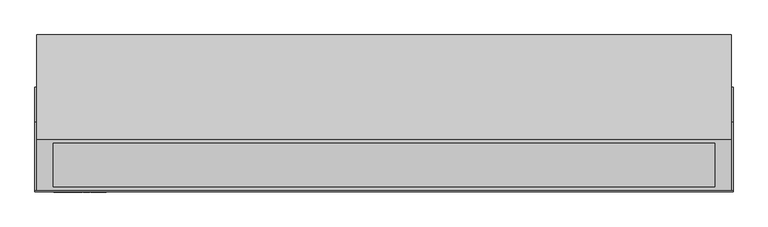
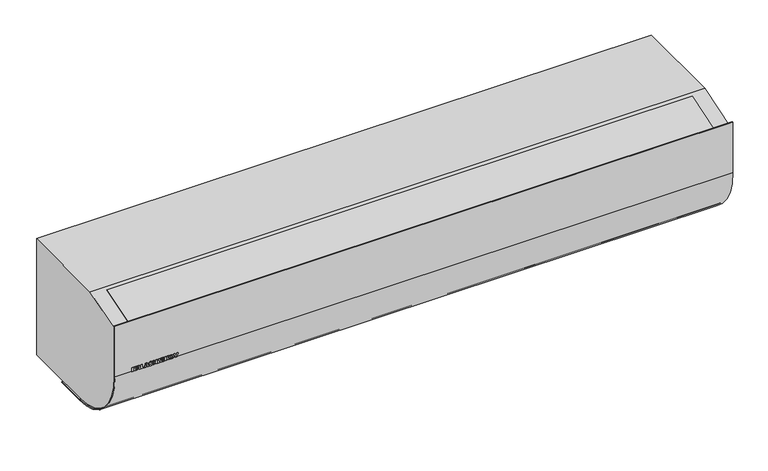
"""IFC4 building model written with IfcOpenShell, lengths in millimetres: proxy geometry, ИЗТТ_Завеса_Электрическая : KVC-D15E12-31."""

import ifcopenshell
import ifcopenshell.guid

model = None  # the IFC model being written
_history = None  # IfcOwnerHistory: only IFC2X3 demands one
_inside = {}  # id of a spatial element -> (the spatial element, [elements in it])
_under = {}  # id of a project, library or spatial element -> (it, [spatial elements below it])
_declared = {}  # id of a project -> (the project, [libraries it declares])
_typed = {}  # id of a type object -> (the type object, [elements of that type])
_made_of = {}  # id of a material, layer set ... -> (it, [elements and type objects made of it])


def new_model(schema):
    """Start an empty IFC model of exactly this schema.

    Asked for "IFC4X3", IfcOpenShell would pick the latest addendum, in which some entities
    have other attributes; the version numbers below select the first issue.
    IFC2X3 requires an IfcOwnerHistory on every rooted entity: one is made here for all.
    """
    global model, _history
    if schema == "IFC4X3":
        model = ifcopenshell.file(schema_version=(4, 3, 0, 0))
    else:
        model = ifcopenshell.file(schema=schema)
    _inside.clear()
    _under.clear()
    _declared.clear()
    _typed.clear()
    _made_of.clear()
    _history = None
    if model.schema == "IFC2X3":
        org = make("IfcOrganization", Name="unknown")
        user = make(
            "IfcPersonAndOrganization",
            ThePerson=make("IfcPerson", FamilyName="unknown"),
            TheOrganization=org,
        )
        app = make(
            "IfcApplication",
            ApplicationDeveloper=org,
            Version="unknown",
            ApplicationFullName="unknown",
            ApplicationIdentifier="unknown",
        )
        _history = make(
            "IfcOwnerHistory",
            OwningUser=user,
            OwningApplication=app,
            ChangeAction="ADDED",
            CreationDate=0,
        )
    return model


def make(cls, **values):
    """One entity of the class cls with the attributes given. An attribute that is None is left unset."""
    return model.create_entity(
        cls, **{name: value for name, value in values.items() if value is not None}
    )


def rooted(cls, **values):
    """An entity with a GlobalId (a new one), such as an element, a storey or a relation."""
    return make(cls, GlobalId=ifcopenshell.guid.new(), OwnerHistory=_history, **values)


def si_unit(unit_type, name, prefix=None):
    """IfcSIUnit, for example si_unit("LENGTHUNIT", "METRE", prefix="MILLI")."""
    return make("IfcSIUnit", UnitType=unit_type, Prefix=prefix, Name=name)


def assignment(units):
    """IfcUnitAssignment: the units of a project."""
    return None if units is None else make("IfcUnitAssignment", Units=units)


def point(xyz):
    """IfcCartesianPoint."""
    return None if xyz is None else make("IfcCartesianPoint", Coordinates=xyz)


def direction(xyz):
    """IfcDirection."""
    return None if xyz is None else make("IfcDirection", DirectionRatios=xyz)


def frame(location, z_axis=None, x_axis=None):
    """IfcAxis2Placement3D, a coordinate frame: its origin and axes. An axis left out is left unset."""
    return make(
        "IfcAxis2Placement3D",
        Location=point(location),
        Axis=direction(z_axis),
        RefDirection=direction(x_axis),
    )


def frame_2d(location, x_axis=None):
    """IfcAxis2Placement2D, a coordinate frame in the plane: its origin and x axis."""
    return make(
        "IfcAxis2Placement2D", Location=point(location), RefDirection=direction(x_axis)
    )


def origin():
    """The frame at (0, 0, 0) with its axes left unset."""
    return frame((0.0, 0.0, 0.0))


def place(relative_to, where):
    """IfcLocalPlacement: puts the frame where relative to a parent placement (None: the world)."""
    return make(
        "IfcLocalPlacement", PlacementRelTo=relative_to, RelativePlacement=where
    )


def context(
    kind, dimensions, precision=None, world=None, true_north=None, identifier=None
):
    """IfcGeometricRepresentationContext, for example the 3D "Model" context."""
    return make(
        "IfcGeometricRepresentationContext",
        ContextIdentifier=identifier,
        ContextType=kind,
        CoordinateSpaceDimension=dimensions,
        Precision=precision,
        WorldCoordinateSystem=world,
        TrueNorth=true_north,
    )


def project(units=None, contexts=None):
    """IfcProject with its units and contexts."""
    return rooted(
        "IfcProject",
        Name="project",
        RepresentationContexts=contexts,
        UnitsInContext=assignment(units),
    )


def spatial(cls, under=None, at=None, **own):
    """A site, building, storey or space (cls), placed at a placement, below another one or the project."""
    s = rooted(cls, ObjectPlacement=at, **own)
    if under is not None:
        _under.setdefault(under.id(), (under, []))[1].append(s)
    return s


def polyline(points):
    """IfcPolyline through the points."""
    return make("IfcPolyline", Points=[point(p) for p in points])


def circle_curve(where, radius):
    """IfcCircle in the frame where."""
    return make("IfcCircle", Position=where, Radius=radius)


def trimmed(basis, trim1, trim2, sense, master):
    """IfcTrimmedCurve: the piece of a basis curve between two trims."""
    return make(
        "IfcTrimmedCurve",
        BasisCurve=basis,
        Trim1=trim1,
        Trim2=trim2,
        SenseAgreement=sense,
        MasterRepresentation=master,
    )


def segment(curve, same_sense, transition):
    """IfcCompositeCurveSegment."""
    return make(
        "IfcCompositeCurveSegment",
        Transition=transition,
        SameSense=same_sense,
        ParentCurve=curve,
    )


def composite_curve(segments, self_intersect=None):
    """IfcCompositeCurve: segments joined end to end."""
    return make("IfcCompositeCurve", Segments=segments, SelfIntersect=self_intersect)


def outline(outer, holes=None, kind="AREA"):
    """IfcArbitraryClosedProfileDef: a profile drawn as a closed curve; with holes, ...WithVoids."""
    if holes is None:
        return make("IfcArbitraryClosedProfileDef", ProfileType=kind, OuterCurve=outer)
    return make(
        "IfcArbitraryProfileDefWithVoids",
        ProfileType=kind,
        OuterCurve=outer,
        InnerCurves=holes,
    )


def extrude(swept, where, along, depth):
    """IfcExtrudedAreaSolid: the profile swept, set in the frame where, extruded along a direction by depth."""
    return make(
        "IfcExtrudedAreaSolid",
        SweptArea=swept,
        Position=where,
        ExtrudedDirection=direction(along),
        Depth=depth,
    )


def shape(context_of_items, identifier, shape_type, items):
    """IfcShapeRepresentation: the items that make up one representation, for example the "Body"."""
    return make(
        "IfcShapeRepresentation",
        ContextOfItems=context_of_items,
        RepresentationIdentifier=identifier,
        RepresentationType=shape_type,
        Items=items,
    )


def source(mapping_origin, context_of_items, identifier, shape_type, items):
    """IfcRepresentationMap: a shape defined once, which mapped items show again and again."""
    return make(
        "IfcRepresentationMap",
        MappingOrigin=mapping_origin,
        MappedRepresentation=shape(context_of_items, identifier, shape_type, items),
    )


def transform(
    local_origin,
    x_axis=None,
    y_axis=None,
    z_axis=None,
    scale=None,
    scale2=None,
    scale3=None,
    uniform=True,
):
    """IfcCartesianTransformationOperator3D, or its non-uniform kind. x_axis, y_axis, z_axis: its Axis1, 2, 3."""
    if uniform:
        return make(
            "IfcCartesianTransformationOperator3D",
            Axis1=direction(x_axis),
            Axis2=direction(y_axis),
            LocalOrigin=point(local_origin),
            Scale=scale,
            Axis3=direction(z_axis),
        )
    return make(
        "IfcCartesianTransformationOperator3DnonUniform",
        Axis1=direction(x_axis),
        Axis2=direction(y_axis),
        LocalOrigin=point(local_origin),
        Scale=scale,
        Axis3=direction(z_axis),
        Scale2=scale2,
        Scale3=scale3,
    )


def mapped(mapping_source, mapping_target):
    """IfcMappedItem: shows the shape of a source again, moved by a transform."""
    return make(
        "IfcMappedItem", MappingSource=mapping_source, MappingTarget=mapping_target
    )


def made_of(thing, what):
    """Note that an element or type object is made of a material, layer set ...; save() writes the relation."""
    if what is not None:
        _made_of.setdefault(what.id(), (what, []))[1].append(thing)
    return thing


def element(
    cls,
    number,
    at=None,
    inside=None,
    cuts=None,
    type_object=None,
    material=None,
    context=None,
    identifier="Body",
    shape_type=None,
    held_by="IfcProductDefinitionShape",
    body=None,
    shapes=None,
    **own,
):
    """One element of the class cls, such as IfcWall. Its Tag is "e" and its number.

    at: its placement. inside: the storey or other place that contains it. cuts: it is an
    opening in that element (IfcRelVoidsElement). A single representation is given by context,
    identifier, shape_type and body (its items); several are given by shapes. held_by: the class
    of the entity that holds the representations. save() writes the other relations.
    """
    e = rooted(cls, Tag="e%d" % number, ObjectPlacement=at, **own)
    if body is not None:
        shapes = [shape(context, identifier, shape_type, body)]
    if shapes is not None:
        e.Representation = make(held_by, Representations=shapes)
    if inside is not None:
        _inside.setdefault(inside.id(), (inside, []))[1].append(e)
    if cuts is not None:
        rooted(
            "IfcRelVoidsElement", RelatingBuildingElement=cuts, RelatedOpeningElement=e
        )
    if type_object is not None:
        _typed.setdefault(type_object.id(), (type_object, []))[1].append(e)
    return made_of(e, material)


def aggregate(whole, parts):
    """IfcRelAggregates: a whole, such as a stair, and the parts it consists of."""
    return rooted("IfcRelAggregates", RelatingObject=whole, RelatedObjects=parts)


def save(model, path):
    """Write the relations noted so far, then the file.

    IfcRelAggregates (storeys below a building ...), IfcRelContainedInSpatialStructure (elements
    in a storey), IfcRelDefinesByType, IfcRelAssociatesMaterial and IfcRelDeclares: one each for
    every whole, place, type object, material and project.
    """
    for whole, parts in _under.values():
        aggregate(whole, parts)
    for where, things in _inside.values():
        rooted(
            "IfcRelContainedInSpatialStructure",
            RelatedElements=things,
            RelatingStructure=where,
        )
    for kind, things in _typed.values():
        rooted("IfcRelDefinesByType", RelatedObjects=things, RelatingType=kind)
    for what, things in _made_of.values():
        rooted("IfcRelAssociatesMaterial", RelatedObjects=things, RelatingMaterial=what)
    for by, libraries in _declared.values():
        rooted("IfcRelDeclares", RelatingContext=by, RelatedDefinitions=libraries)
    model.write(path)


def plane_surface(at):
    """IfcPlane: the flat surface through the origin of the frame at, square to its z axis."""
    return make("IfcPlane", Position=at)


def cylinder_surface(at, radius):
    """IfcCylindricalSurface: all points at the distance radius from the z axis of the frame at."""
    return make("IfcCylindricalSurface", Position=at, Radius=radius)


def advanced_brep(points, edges, surfaces, faces):
    """IfcAdvancedBrep: a solid bounded by faces that lie on surfaces and meet in shared edges.

    An edge is (start, end): straight between two places in points (the first is 0);
    or (start, end, curve); or (start, end, curve, False) where it runs against its curve.
    A face is (place in surfaces, loops), or (place, loops, False) where it looks against
    its surface's normal. A loop lists edges by number (the first is 1), with a minus sign
    where the edge is run from its end to its start. The first loop is the outer one.
    """
    corners = [point(p) for p in points]
    vertices = [make("IfcVertexPoint", VertexGeometry=c) for c in corners]
    made = []
    for start, end, *more in edges:
        made.append(
            make(
                "IfcEdgeCurve",
                EdgeStart=vertices[start],
                EdgeEnd=vertices[end],
                EdgeGeometry=more[0] if more else make("IfcPolyline", Points=[corners[start], corners[end]]),
                SameSense=more[1] if len(more) > 1 else True,
            )
        )
    hull = []
    for where, loops, *sense in faces:
        bounds = []
        for j, loop in enumerate(loops):
            ring = [make("IfcOrientedEdge", EdgeElement=made[abs(k) - 1], Orientation=k > 0) for k in loop]
            bounds.append(
                make(
                    "IfcFaceOuterBound" if j == 0 else "IfcFaceBound",
                    Bound=make("IfcEdgeLoop", EdgeList=ring),
                    Orientation=True,
                )
            )
        hull.append(make("IfcAdvancedFace", Bounds=bounds, FaceSurface=surfaces[where], SameSense=sense[0] if sense else True))
    return make("IfcAdvancedBrep", Outer=make("IfcClosedShell", CfsFaces=hull))


def mechanical_equipment_00a1be9c(model_context):
    return source(origin(), model_context, "Body", "SolidModel", [
        extrude(outline(polyline([(162.0, -719.0196078), (152.0, -719.0196078), (152.0, -715.8823529), (153.7647059, -715.8823529), (155.7745098, -714.1115196), (152.0, -712.2794118), (152.0, -708.4313725), (158.2775735, -711.9056373), (162.0, -708.627451), (162.0, -712.8982843), (158.2224265, -715.8823529), (162.0, -715.8823529), (162.0, -719.0196078)])), frame((0.0, -342.0, 0.0), z_axis=(0.0, 1.0, 0.0), x_axis=(0.0, 0.0, 1.0)), (0.0, 0.0, 1.0), 1.0),
        extrude(outline(polyline([(153.5686275, -701.4338235), (152.0, -700.9803922), (152.0, -697.6470588), (162.0, -701.0202206), (162.0, -705.0582108), (152.0, -708.4313725), (152.0, -705.0980392), (153.5686275, -704.6660539), (153.5686275, -701.4338235)]), holes=[polyline([(155.9215686, -702.0281863), (155.9215686, -704.0165441), (159.4540441, -703.0392157), (155.9215686, -702.0281863)])]), frame((0.0, -342.0, 0.0), z_axis=(0.0, 1.0, 0.0), x_axis=(0.0, 0.0, 1.0)), (0.0, 0.0, 1.0), 1.0),
        extrude(outline(polyline([(162.0, -696.6666667), (152.0, -696.6666667), (152.0, -688.8235294), (154.3529412, -688.8235294), (154.3529412, -693.5294118), (162.0, -693.5294118), (162.0, -696.6666667)])), frame((0.0, -342.0, 0.0), z_axis=(0.0, 1.0, 0.0), x_axis=(0.0, 0.0, 1.0)), (0.0, 0.0, 1.0), 1.0),
        extrude(outline(polyline([(153.5686275, -681.4338235), (152.0, -680.9803922), (152.0, -677.6470588), (162.0, -681.0202206), (162.0, -685.0582108), (152.0, -688.4313725), (152.0, -685.0980392), (153.5686275, -684.6660539), (153.5686275, -681.4338235)]), holes=[polyline([(155.9215686, -682.0281863), (155.9215686, -684.0165441), (159.4540441, -683.0392157), (155.9215686, -682.0281863)])]), frame((0.0, -342.0, 0.0), z_axis=(0.0, 1.0, 0.0), x_axis=(0.0, 0.0, 1.0)), (0.0, 0.0, 1.0), 1.0),
        extrude(outline(polyline([(155.3394608, -677.254902), (152.8026961, -676.1488971), (151.8039216, -672.6378676), (152.2297794, -670.2420343), (153.4813113, -668.7637868), (155.28125, -668.2352941), (156.7870711, -668.6305147), (157.9129902, -669.8958333), (158.8106618, -672.7757353), (160.4313725, -672.9074755), (160.1050858, -672.1338848), (159.0588235, -671.7647059), (159.2395833, -668.627451), (161.4883578, -669.8054534), (162.1960784, -672.6807598), (161.8039216, -675.1011029), (160.7285539, -676.4231005), (159.276348, -676.8627451), (157.3492647, -675.9957108), (156.1237745, -673.1219363), (154.8186275, -671.372549), (154.0818015, -671.6865809), (153.7647059, -672.5796569), (154.3958333, -673.7775735), (155.5294118, -674.1176471), (155.3394608, -677.254902)])), frame((0.0, -342.0, 0.0), z_axis=(0.0, 1.0, 0.0), x_axis=(0.0, 0.0, 1.0)), (0.0, 0.0, 1.0), 1.0),
        extrude(outline(polyline([(162.0, -666.6666667), (152.0, -666.6666667), (152.0, -663.5294118), (156.1176471, -663.5294118), (156.1176471, -660.1960784), (152.0, -660.1960784), (152.0, -657.0588235), (162.0, -657.0588235), (162.0, -660.1960784), (158.4705882, -660.1960784), (158.4705882, -663.5294118), (162.0, -663.5294118), (162.0, -666.6666667)])), frame((0.0, -342.0, 0.0), z_axis=(0.0, 1.0, 0.0), x_axis=(0.0, 0.0, 1.0)), (0.0, 0.0, 1.0), 1.0),
        extrude(outline(polyline([(162.0, -655.0980392), (152.0, -655.0980392), (152.0, -652.1568627), (157.4901961, -652.1568627), (152.0, -648.4313725), (152.0, -645.4901961), (162.0, -645.4901961), (162.0, -648.4313725), (156.4730392, -648.4313725), (162.0, -652.1783088), (162.0, -655.0980392)])), frame((0.0, -342.0, 0.0), z_axis=(0.0, 1.0, 0.0), x_axis=(0.0, 0.0, 1.0)), (0.0, 0.0, 1.0), 1.0),
        extrude(outline(polyline([(-640.1960784, -342.0), (-643.3333333, -342.0), (-643.3333333, -341.0), (-640.1960784, -341.0), (-640.1960784, -342.0)])), frame((0.0, 0.0, 152.0), z_axis=(0.0, 0.0, 1.0), x_axis=(1.0, 0.0, 0.0)), (0.0, 0.0, 1.0), 10.0),
        extrude(outline(polyline([(162.0, -638.0392157), (152.0, -638.0392157), (152.0, -634.9019608), (153.7647059, -634.9019608), (155.7745098, -633.1311275), (152.0, -631.2990196), (152.0, -627.4509804), (158.2775735, -630.9252451), (162.0, -627.6470588), (162.0, -631.9178922), (158.2224265, -634.9019608), (162.0, -634.9019608), (162.0, -638.0392157)])), frame((0.0, -342.0, 0.0), z_axis=(0.0, 1.0, 0.0), x_axis=(0.0, 0.0, 1.0)), (0.0, 0.0, 1.0), 1.0),
        extrude(outline(polyline([(156.9938725, -626.8627451), (154.0603554, -626.171875), (152.346201, -624.3688725), (151.8039216, -621.5594363), (152.4304534, -618.7729779), (154.1859681, -617.0618873), (157.0765931, -616.4705882), (160.8495711, -617.8247549), (162.1960784, -621.685049), (160.8250613, -625.4947917), (156.9938725, -626.8627451)]), holes=[polyline([(156.9938725, -623.7254902), (159.1813725, -623.1678922), (159.8431373, -621.6911765), (159.1920956, -620.1685049), (157.1286765, -619.6078431), (154.8048407, -620.145527), (154.1568627, -621.6636029), (154.8186275, -623.1709559), (156.9938725, -623.7254902)])]), frame((0.0, -342.0, 0.0), z_axis=(0.0, 1.0, 0.0), x_axis=(0.0, 0.0, 1.0)), (0.0, 0.0, 1.0), 1.0),
        extrude(outline(polyline([(162.0, -615.6862745), (152.0, -611.9699755), (152.0, -608.6397059), (162.0, -604.9019608), (162.0, -608.2352941), (154.8033088, -610.2941176), (162.0, -612.3560049), (162.0, -615.6862745)])), frame((0.0, -342.0, 0.0), z_axis=(0.0, 1.0, 0.0), x_axis=(0.0, 0.0, 1.0)), (0.0, 0.0, 1.0), 1.0),
        extrude(outline(polyline([(-22.2777778, 10.0), (-22.2777778, 0.0), (-40.5555556, 10.0), (-40.5555556, 0.0), (-58.8333333, 10.0), (-58.8333333, 0.0), (-77.1111111, 10.0), (-77.1111111, 0.0), (-95.3888889, 10.0), (-95.3888889, 0.0), (-113.5833165, 10.5360909), (-4.0, 10.5360909), (-4.0, 0.0), (-22.2777778, 10.0)])), frame((-720.0, 0.0, 0.0), z_axis=(1.0, 0.0, 0.0), x_axis=(0.0, 1.0, 0.0)), (0.0, 0.0, 1.0), 1440.0),
        advanced_brep(
        [(756.0, -227.3333333, 304.0), (756.0, -339.0, 269.0), (756.0, -339.0, 152.0), (756.0, -189.0, 2.0), (756.0, 0.0, 2.0), (756.0, 0.0, 304.0), (-756.0, -227.3333333, 304.0), (-756.0, 0.0, 304.0), (-756.0, 0.0, 2.0), (-756.0, -189.0, 2.0), (-756.0, -339.0, 152.0), (-756.0, -339.0, 269.0), (720.0, -4.0, 2.0), (-720.0, -4.0, 2.0), (-720.0, -113.6666667, 2.0), (720.0, -113.6666667, 2.0), (720.0, -4.0, 10.0), (720.0, -113.6666667, 10.0), (-720.0, -113.6666667, 10.0), (-720.0, -4.0, 10.0)],
        [
            (0, 1),
            (1, 2),
            (2, 3, circle_curve(frame((756.0, -189.0, 152.0), z_axis=(1.0, 0.0, 0.0), x_axis=(0.0, 1.0, 0.0)), 150.0)),
            (3, 4),
            (4, 5),
            (5, 0),
            (6, 7),
            (7, 8),
            (8, 9),
            (9, 10, circle_curve(frame((-756.0, -189.0, 152.0), z_axis=(-1.0, 0.0, 0.0), x_axis=(0.0, 1.0, 0.0)), 150.0)),
            (10, 11),
            (11, 6),
            (1, 11),
            (10, 2),
            (4, 8),
            (7, 5),
            (6, 0),
            (9, 3),
            (12, 13),
            (13, 14),
            (14, 15),
            (15, 12),
            (16, 17),
            (17, 18),
            (18, 19),
            (19, 16),
            (19, 13),
            (12, 16),
            (18, 14),
            (17, 15),
        ],
        [
            plane_surface(frame((756.0, -227.3333333, 304.0), z_axis=(1.0, 0.0, 0.0), x_axis=(0.0, -0.9542262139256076, -0.2990858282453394))),
            plane_surface(frame((-756.0, -227.3333333, 304.0), z_axis=(-1.0, 0.0, 0.0), x_axis=(0.0, 0.9542262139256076, 0.2990858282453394))),
            plane_surface(frame((756.0, -339.0, 269.0), z_axis=(0.0, -1.0, 0.0), x_axis=(-1.0, 0.0, 0.0))),
            plane_surface(frame((756.0, 0.0, 2.0), z_axis=(0.0, 1.0, 0.0), x_axis=(-1.0, 0.0, 0.0))),
            plane_surface(frame((756.0, 0.0, 304.0), z_axis=(0.0, 0.0, 1.0), x_axis=(-1.0, 0.0, 0.0))),
            cylinder_surface(frame((-756.0, -189.0, 152.0), z_axis=(1.0, 0.0, 0.0), x_axis=(0.0, 1.0, 0.0)), 150.0),
            plane_surface(frame((756.0, -189.0, 2.0), z_axis=(0.0, 0.0, -1.0), x_axis=(-1.0, 0.0, 0.0))),
            plane_surface(frame((756.0, -227.3333333, 304.0), z_axis=(0.0, -0.2990858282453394, 0.9542262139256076), x_axis=(-1.0, 0.0, 0.0))),
            plane_surface(frame((-720.0, -4.0, 10.0), z_axis=(0.0, 0.0, -1.0), x_axis=(-1.0, 0.0, 0.0))),
            plane_surface(frame((720.0, -4.0, 10.0), z_axis=(0.0, -1.0, 0.0), x_axis=(0.0, 0.0, -1.0))),
            plane_surface(frame((-720.0, -4.0, 10.0), z_axis=(1.0, 0.0, 0.0), x_axis=(0.0, 0.0, -1.0))),
            plane_surface(frame((-720.0, -113.6666667, 10.0), z_axis=(0.0, 1.0, 0.0), x_axis=(0.0, 0.0, -1.0))),
            plane_surface(frame((720.0, -113.6666667, 10.0), z_axis=(-1.0, 0.0, 0.0), x_axis=(0.0, 0.0, -1.0))),
        ],
        [
            (0, [[1, 2, 3, 4, 5, 6]]),
            (1, [[7, 8, 9, 10, 11, 12]]),
            (2, [[-2, 13, -11, 14]]),
            (3, [[-5, 15, -8, 16]]),
            (4, [[-6, -16, -7, 17]]),
            (5, [[-3, -14, -10, 18]]),
            (6, [[-4, -18, -9, -15], [19, 20, 21, 22]]),
            (7, [[-1, -17, -12, -13]]),
            (8, [[23, 24, 25, 26]]),
            (9, [[-26, 27, -19, 28]]),
            (10, [[-25, 29, -20, -27]]),
            (11, [[-24, 30, -21, -29]]),
            (12, [[-23, -28, -22, -30]]),
        ],
    ),
        extrude(outline(polyline([(0.0, -99.1190169), (0.0, 0.0), (1440.0, 0.0), (1440.0, -99.1190169), (0.0, -99.1190169)])), frame((720.0, -330.390912, 270.9360668), z_axis=(0.0, -0.2990858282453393, 0.9542262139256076), x_axis=(-1.0, 0.0, 0.0)), (0.0, 0.0, 1.0), 1.4548211),
        extrude(outline(composite_curve([segment(polyline([(-341.0, 284.0), (-339.0, 284.0), (-339.0, 152.0)]), True, "CONTINUOUS"), segment(trimmed(circle_curve(frame_2d((-189.0, 152.0)), 150.0), [point((-339.0, 152.0))], [point((-189.0, 2.0))], True, "CARTESIAN"), True, "CONTINUOUS"), segment(polyline([(-189.0, 2.0), (-113.6666667, 2.0), (-113.6666667, 0.0), (-189.0, 0.0)]), True, "CONTINUOUS"), segment(trimmed(circle_curve(frame_2d((-189.0, 152.0)), 152.0), [point((-189.0, 0.0))], [point((-341.0, 152.0))], False, "CARTESIAN"), True, "CONTINUOUS"), segment(polyline([(-341.0, 152.0), (-341.0, 284.0)]), True, "CONTINUOUS")], self_intersect=False)), frame((-760.0, 0.0, 0.0), z_axis=(1.0, 0.0, 0.0), x_axis=(0.0, 1.0, 0.0)), (0.0, 0.0, 1.0), 1520.0),
    ])


if __name__ == "__main__":
    model = new_model("IFC4")
    model_context = context("Model", 3, world=origin())
    ifc_project = project(units=[si_unit("LENGTHUNIT", "METRE", prefix="MILLI")], contexts=[model_context])
    site = spatial("IfcSite", under=ifc_project)
    building = spatial("IfcBuilding", under=site)
    placement = place(None, origin())
    mechanical_equipment_shape = mechanical_equipment_00a1be9c(model_context)
    element("IfcBuildingElementProxy", 1, Name="ИЗТТ_Завеса_Электрическая : KVC-D15E12-31", ObjectType="ИЗТТ_Завеса_Электрическая : KVC-D15E12-31", at=placement, inside=building, context=model_context, shape_type="MappedRepresentation", body=[
        mapped(mechanical_equipment_shape, transform((0.0, 0.0, 0.0), x_axis=(1.0, 0.0, 0.0), y_axis=(0.0, 1.0, 0.0), z_axis=(0.0, 0.0, 1.0))),
    ])
    save(model, "model.ifc")
